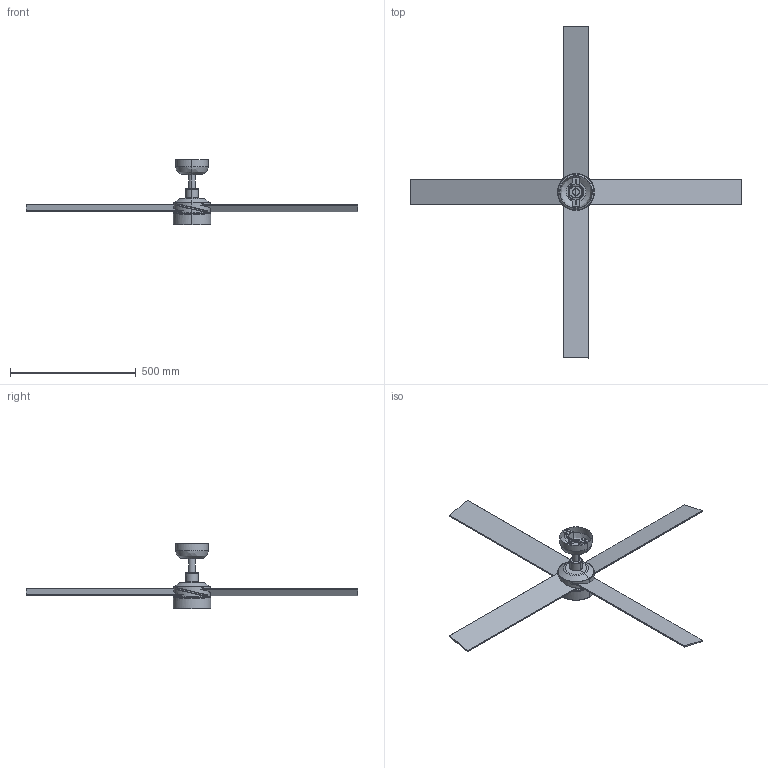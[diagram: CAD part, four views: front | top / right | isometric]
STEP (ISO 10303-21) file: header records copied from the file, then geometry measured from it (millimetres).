
FILE_DESCRIPTION(/* description */ (''),/* implementation_level */ '2;1');
FILE_NAME(/* name */ '34355-1TW_3d',/* time_stamp */ '2026-06-02T11:43:13+02:00',/* author */ (''),/* organization */ (''),/* preprocessor_version */ 'ST-DEVELOPER v19.2',/* originating_system */ 'Rhino 8.30',/* authorisation */ '');
FILE_SCHEMA (('CONFIG_CONTROL_DESIGN'));
Length unit declared in the file: millimetre
Products named in the file (1): Document
Bounding box: 1320 x 1320 x 261.06 mm (x, y, z)
Volume: 2212808 mm3; surface area: 822162.9 mm2
Topology: 7 solids, 8 shells, 287 faces, 764 edges, 479 vertices
Faces by surface type: plane 147, cylinder 107, bspline 33
Entity records: 14170 total; most frequent: CARTESIAN_POINT 6459, ORIENTED_EDGE 1516, EDGE_CURVE 764, DIRECTION 718, AXIS2_PLACEMENT_3D 486, VERTEX_POINT 479, B_SPLINE_CURVE_WITH_KNOTS 478, EDGE_LOOP 328
